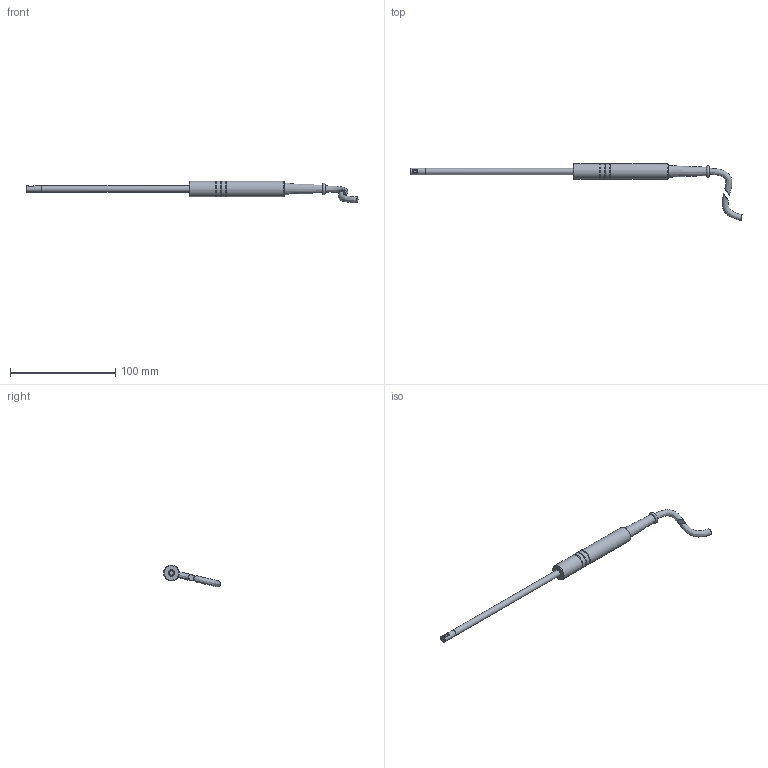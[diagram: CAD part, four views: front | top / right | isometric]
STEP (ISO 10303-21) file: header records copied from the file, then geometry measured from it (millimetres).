
FILE_DESCRIPTION (( 'STEP AP203' ), '1' );
FILE_NAME ('Zusammenbau_UV_Probe_UVpad_E_V0_defeature_150mm_side_on.STEP', '2026-09-02T09:58:31', ( '' ), ( '' ), 'SwSTEP 2.0', 'SolidWorks 2025', '' );
FILE_SCHEMA (( 'CONFIG_CONTROL_DESIGN' ));
Length unit declared in the file: millimetre
Products named in the file (1): Zusammenbau_UV_Probe_UVpad_E_V0_defeature_150mm_side_on
Bounding box: 315.22 x 54.09 x 20.75 mm (x, y, z)
Volume: 24725.9 mm3; surface area: 10138.8 mm2
Topology: 3 solids, 3 shells, 38 faces, 69 edges, 43 vertices
Faces by surface type: plane 15, cylinder 10, cone 9, bspline 2, torus 2
Full cylindrical faces by diameter (mm): 3 x1, 6 x2, 15 x4
Entity records: 1429 total; most frequent: CARTESIAN_POINT 701, DIRECTION 144, ORIENTED_EDGE 90, AXIS2_PLACEMENT_3D 66, EDGE_LOOP 64, FACE_OUTER_BOUND 49, EDGE_CURVE 45, VERTEX_POINT 39
